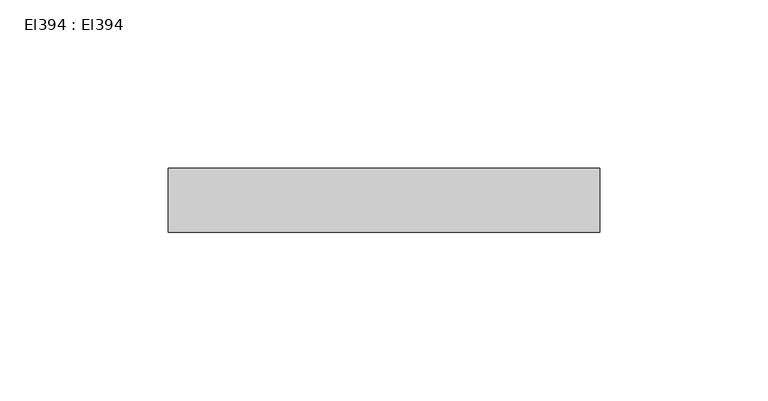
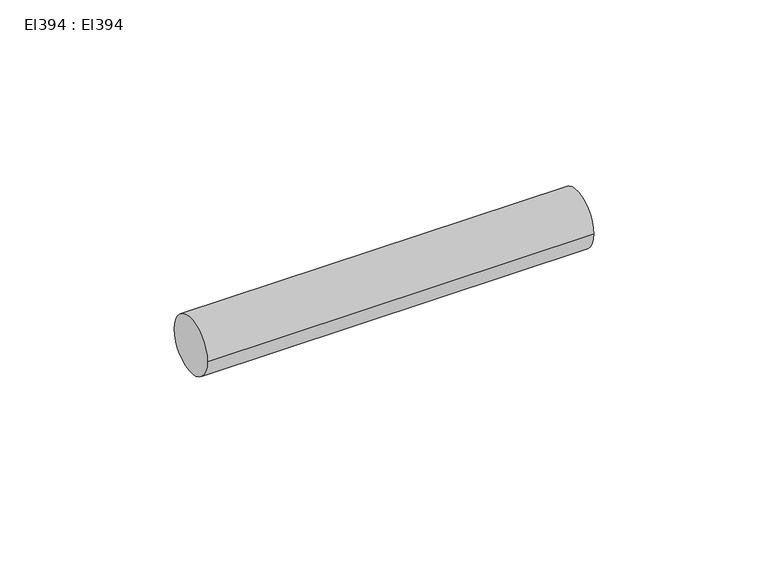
"""IFC4 building model written with IfcOpenShell, lengths in millimetres: cable carrier segment geometry, El394 : El394."""

import ifcopenshell
import ifcopenshell.guid

model = None  # the IFC model being written
_history = None  # IfcOwnerHistory: only IFC2X3 demands one
_inside = {}  # id of a spatial element -> (the spatial element, [elements in it])
_under = {}  # id of a project, library or spatial element -> (it, [spatial elements below it])
_declared = {}  # id of a project -> (the project, [libraries it declares])
_typed = {}  # id of a type object -> (the type object, [elements of that type])
_made_of = {}  # id of a material, layer set ... -> (it, [elements and type objects made of it])


def new_model(schema):
    """Start an empty IFC model of exactly this schema.

    Asked for "IFC4X3", IfcOpenShell would pick the latest addendum, in which some entities
    have other attributes; the version numbers below select the first issue.
    IFC2X3 requires an IfcOwnerHistory on every rooted entity: one is made here for all.
    """
    global model, _history
    if schema == "IFC4X3":
        model = ifcopenshell.file(schema_version=(4, 3, 0, 0))
    else:
        model = ifcopenshell.file(schema=schema)
    _inside.clear()
    _under.clear()
    _declared.clear()
    _typed.clear()
    _made_of.clear()
    _history = None
    if model.schema == "IFC2X3":
        org = make("IfcOrganization", Name="unknown")
        user = make(
            "IfcPersonAndOrganization",
            ThePerson=make("IfcPerson", FamilyName="unknown"),
            TheOrganization=org,
        )
        app = make(
            "IfcApplication",
            ApplicationDeveloper=org,
            Version="unknown",
            ApplicationFullName="unknown",
            ApplicationIdentifier="unknown",
        )
        _history = make(
            "IfcOwnerHistory",
            OwningUser=user,
            OwningApplication=app,
            ChangeAction="ADDED",
            CreationDate=0,
        )
    return model


def make(cls, **values):
    """One entity of the class cls with the attributes given. An attribute that is None is left unset."""
    return model.create_entity(
        cls, **{name: value for name, value in values.items() if value is not None}
    )


def rooted(cls, **values):
    """An entity with a GlobalId (a new one), such as an element, a storey or a relation."""
    return make(cls, GlobalId=ifcopenshell.guid.new(), OwnerHistory=_history, **values)


def si_unit(unit_type, name, prefix=None):
    """IfcSIUnit, for example si_unit("LENGTHUNIT", "METRE", prefix="MILLI")."""
    return make("IfcSIUnit", UnitType=unit_type, Prefix=prefix, Name=name)


def assignment(units):
    """IfcUnitAssignment: the units of a project."""
    return None if units is None else make("IfcUnitAssignment", Units=units)


def point(xyz):
    """IfcCartesianPoint."""
    return None if xyz is None else make("IfcCartesianPoint", Coordinates=xyz)


def direction(xyz):
    """IfcDirection."""
    return None if xyz is None else make("IfcDirection", DirectionRatios=xyz)


def frame(location, z_axis=None, x_axis=None):
    """IfcAxis2Placement3D, a coordinate frame: its origin and axes. An axis left out is left unset."""
    return make(
        "IfcAxis2Placement3D",
        Location=point(location),
        Axis=direction(z_axis),
        RefDirection=direction(x_axis),
    )


def frame_2d(location, x_axis=None):
    """IfcAxis2Placement2D, a coordinate frame in the plane: its origin and x axis."""
    return make(
        "IfcAxis2Placement2D", Location=point(location), RefDirection=direction(x_axis)
    )


def origin():
    """The frame at (0, 0, 0) with its axes left unset."""
    return frame((0.0, 0.0, 0.0))


def place(relative_to, where):
    """IfcLocalPlacement: puts the frame where relative to a parent placement (None: the world)."""
    return make(
        "IfcLocalPlacement", PlacementRelTo=relative_to, RelativePlacement=where
    )


def context(
    kind, dimensions, precision=None, world=None, true_north=None, identifier=None
):
    """IfcGeometricRepresentationContext, for example the 3D "Model" context."""
    return make(
        "IfcGeometricRepresentationContext",
        ContextIdentifier=identifier,
        ContextType=kind,
        CoordinateSpaceDimension=dimensions,
        Precision=precision,
        WorldCoordinateSystem=world,
        TrueNorth=true_north,
    )


def project(units=None, contexts=None):
    """IfcProject with its units and contexts."""
    return rooted(
        "IfcProject",
        Name="project",
        RepresentationContexts=contexts,
        UnitsInContext=assignment(units),
    )


def spatial(cls, under=None, at=None, **own):
    """A site, building, storey or space (cls), placed at a placement, below another one or the project."""
    s = rooted(cls, ObjectPlacement=at, **own)
    if under is not None:
        _under.setdefault(under.id(), (under, []))[1].append(s)
    return s


def circle_curve(where, radius):
    """IfcCircle in the frame where."""
    return make("IfcCircle", Position=where, Radius=radius)


def trimmed(basis, trim1, trim2, sense, master):
    """IfcTrimmedCurve: the piece of a basis curve between two trims."""
    return make(
        "IfcTrimmedCurve",
        BasisCurve=basis,
        Trim1=trim1,
        Trim2=trim2,
        SenseAgreement=sense,
        MasterRepresentation=master,
    )


def segment(curve, same_sense, transition):
    """IfcCompositeCurveSegment."""
    return make(
        "IfcCompositeCurveSegment",
        Transition=transition,
        SameSense=same_sense,
        ParentCurve=curve,
    )


def composite_curve(segments, self_intersect=None):
    """IfcCompositeCurve: segments joined end to end."""
    return make("IfcCompositeCurve", Segments=segments, SelfIntersect=self_intersect)


def outline(outer, holes=None, kind="AREA"):
    """IfcArbitraryClosedProfileDef: a profile drawn as a closed curve; with holes, ...WithVoids."""
    if holes is None:
        return make("IfcArbitraryClosedProfileDef", ProfileType=kind, OuterCurve=outer)
    return make(
        "IfcArbitraryProfileDefWithVoids",
        ProfileType=kind,
        OuterCurve=outer,
        InnerCurves=holes,
    )


def extrude(swept, where, along, depth):
    """IfcExtrudedAreaSolid: the profile swept, set in the frame where, extruded along a direction by depth."""
    return make(
        "IfcExtrudedAreaSolid",
        SweptArea=swept,
        Position=where,
        ExtrudedDirection=direction(along),
        Depth=depth,
    )


def shape(context_of_items, identifier, shape_type, items):
    """IfcShapeRepresentation: the items that make up one representation, for example the "Body"."""
    return make(
        "IfcShapeRepresentation",
        ContextOfItems=context_of_items,
        RepresentationIdentifier=identifier,
        RepresentationType=shape_type,
        Items=items,
    )


def source(mapping_origin, context_of_items, identifier, shape_type, items):
    """IfcRepresentationMap: a shape defined once, which mapped items show again and again."""
    return make(
        "IfcRepresentationMap",
        MappingOrigin=mapping_origin,
        MappedRepresentation=shape(context_of_items, identifier, shape_type, items),
    )


def transform(
    local_origin,
    x_axis=None,
    y_axis=None,
    z_axis=None,
    scale=None,
    scale2=None,
    scale3=None,
    uniform=True,
):
    """IfcCartesianTransformationOperator3D, or its non-uniform kind. x_axis, y_axis, z_axis: its Axis1, 2, 3."""
    if uniform:
        return make(
            "IfcCartesianTransformationOperator3D",
            Axis1=direction(x_axis),
            Axis2=direction(y_axis),
            LocalOrigin=point(local_origin),
            Scale=scale,
            Axis3=direction(z_axis),
        )
    return make(
        "IfcCartesianTransformationOperator3DnonUniform",
        Axis1=direction(x_axis),
        Axis2=direction(y_axis),
        LocalOrigin=point(local_origin),
        Scale=scale,
        Axis3=direction(z_axis),
        Scale2=scale2,
        Scale3=scale3,
    )


def mapped(mapping_source, mapping_target):
    """IfcMappedItem: shows the shape of a source again, moved by a transform."""
    return make(
        "IfcMappedItem", MappingSource=mapping_source, MappingTarget=mapping_target
    )


def made_of(thing, what):
    """Note that an element or type object is made of a material, layer set ...; save() writes the relation."""
    if what is not None:
        _made_of.setdefault(what.id(), (what, []))[1].append(thing)
    return thing


def element(
    cls,
    number,
    at=None,
    inside=None,
    cuts=None,
    type_object=None,
    material=None,
    context=None,
    identifier="Body",
    shape_type=None,
    held_by="IfcProductDefinitionShape",
    body=None,
    shapes=None,
    **own,
):
    """One element of the class cls, such as IfcWall. Its Tag is "e" and its number.

    at: its placement. inside: the storey or other place that contains it. cuts: it is an
    opening in that element (IfcRelVoidsElement). A single representation is given by context,
    identifier, shape_type and body (its items); several are given by shapes. held_by: the class
    of the entity that holds the representations. save() writes the other relations.
    """
    e = rooted(cls, Tag="e%d" % number, ObjectPlacement=at, **own)
    if body is not None:
        shapes = [shape(context, identifier, shape_type, body)]
    if shapes is not None:
        e.Representation = make(held_by, Representations=shapes)
    if inside is not None:
        _inside.setdefault(inside.id(), (inside, []))[1].append(e)
    if cuts is not None:
        rooted(
            "IfcRelVoidsElement", RelatingBuildingElement=cuts, RelatedOpeningElement=e
        )
    if type_object is not None:
        _typed.setdefault(type_object.id(), (type_object, []))[1].append(e)
    return made_of(e, material)


def aggregate(whole, parts):
    """IfcRelAggregates: a whole, such as a stair, and the parts it consists of."""
    return rooted("IfcRelAggregates", RelatingObject=whole, RelatedObjects=parts)


def save(model, path):
    """Write the relations noted so far, then the file.

    IfcRelAggregates (storeys below a building ...), IfcRelContainedInSpatialStructure (elements
    in a storey), IfcRelDefinesByType, IfcRelAssociatesMaterial and IfcRelDeclares: one each for
    every whole, place, type object, material and project.
    """
    for whole, parts in _under.values():
        aggregate(whole, parts)
    for where, things in _inside.values():
        rooted(
            "IfcRelContainedInSpatialStructure",
            RelatedElements=things,
            RelatingStructure=where,
        )
    for kind, things in _typed.values():
        rooted("IfcRelDefinesByType", RelatedObjects=things, RelatingType=kind)
    for what, things in _made_of.values():
        rooted("IfcRelAssociatesMaterial", RelatedObjects=things, RelatingMaterial=what)
    for by, libraries in _declared.values():
        rooted("IfcRelDeclares", RelatingContext=by, RelatedDefinitions=libraries)
    model.write(path)


def el394_el394_9f236bde(model_context):
    return source(origin(), model_context, "Body", "SweptSolid", [
        extrude(outline(composite_curve([segment(trimmed(circle_curve(frame_2d((8672.1, 1200.0)), 9.5), [point((8662.6, 1200.0))], [point((8681.6, 1200.0))], False, "CARTESIAN"), True, "CONTINUOUS"), segment(trimmed(circle_curve(frame_2d((8672.1, 1200.0)), 9.5), [point((8681.6, 1200.0))], [point((8662.6, 1200.0))], False, "CARTESIAN"), True, "CONTINUOUS")], self_intersect=False)), frame((11063.9297, 0.0, 0.0), z_axis=(1.0, 0.0, 0.0), x_axis=(0.0, 1.0, 0.0)), (0.0, 0.0, 1.0), 127.941),
    ])


if __name__ == "__main__":
    model = new_model("IFC4")
    model_context = context("Model", 3, world=origin())
    ifc_project = project(units=[si_unit("LENGTHUNIT", "METRE", prefix="MILLI")], contexts=[model_context])
    site = spatial("IfcSite", under=ifc_project)
    building = spatial("IfcBuilding", under=site)
    placement = place(None, origin())
    el394_el394_shape = el394_el394_9f236bde(model_context)
    element("IfcCableCarrierSegment", 1, ObjectType="El394 : El394", at=placement, inside=building, context=model_context, shape_type="MappedRepresentation", body=[
        mapped(el394_el394_shape, transform((0.0, 0.0, 0.0), x_axis=(1.0, 0.0, 0.0), y_axis=(0.0, 1.0, 0.0), z_axis=(0.0, 0.0, 1.0))),
    ])
    save(model, "model.ifc")
